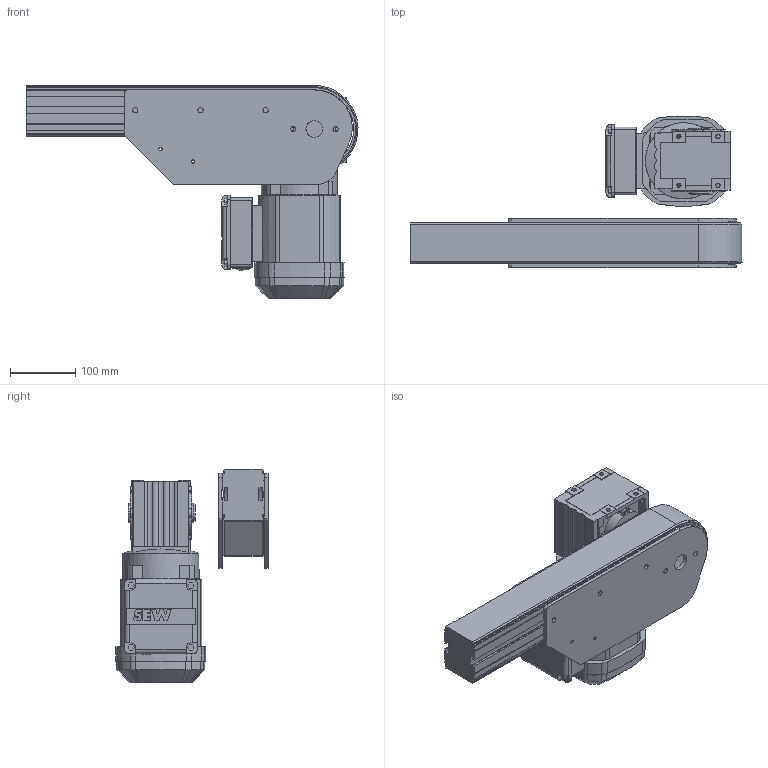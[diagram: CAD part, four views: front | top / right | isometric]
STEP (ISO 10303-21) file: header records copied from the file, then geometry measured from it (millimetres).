
FILE_DESCRIPTION((''),'2;1');
FILE_NAME('C:\Vault Klient\Projekt\Koncept konstruktion\Serie 620 Drivenhet\620-365V.stp','2010-11-05T09:28:14',('Mathias'),(''),'Autodesk Inventor 2011','Autodesk Inventor 2011','');
FILE_SCHEMA(('AUTOMOTIVE_DESIGN { 1 0 10303 214 1 1 1 1 }'));
Length unit declared in the file: millimetre
Products named in the file (1): 620-365V
Bounding box: 509.95 x 233.64 x 327.5 mm (x, y, z)
Volume: 6900101.2 mm3; surface area: 594393.3 mm2
Topology: 2 solids, 5 shells, 596 faces, 1669 edges, 1094 vertices
Faces by surface type: plane 373, cylinder 193, bspline 16, cone 12, sphere 2
Full cylindrical faces by diameter (mm): 5 x4, 6 x9, 6.6 x8, 8 x10, 20 x1, 25 x1, 26 x2, 28 x1, 30 x2, 117 x1
Entity records: 19961 total; most frequent: CARTESIAN_POINT 3804, ORIENTED_EDGE 3236, DIRECTION 3177, EDGE_CURVE 1618, VECTOR 1129, LINE 1129, VERTEX_POINT 1087, AXIS2_PLACEMENT_3D 1024
